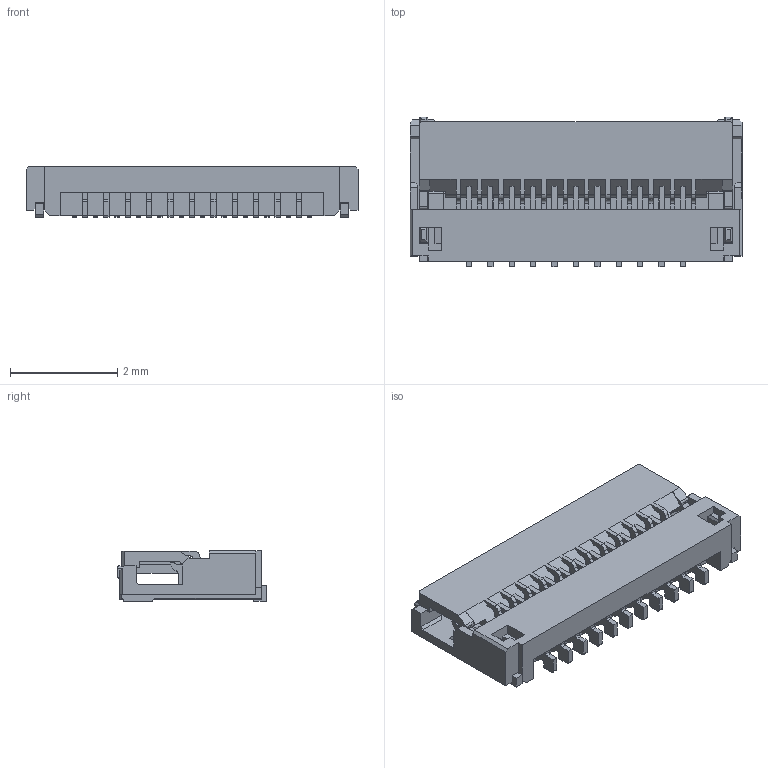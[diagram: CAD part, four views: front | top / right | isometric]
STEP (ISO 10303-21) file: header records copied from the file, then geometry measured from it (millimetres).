
FILE_DESCRIPTION (( 'STEP AP214' ), '1' );
FILE_NAME ('04_6866_723_000_846_+.STEP', '2018-10-31T04:59:05', ( 'Asmin' ), ( '' ), 'SwSTEP 2.0', 'SolidWorks 2014', '' );
FILE_SCHEMA (( 'AUTOMOTIVE_DESIGN' ));
Length unit declared in the file: millimetre
Products named in the file (1): 04_6866_723_000_846_+
Bounding box: 6.2 x 2.79 x 0.95 mm (x, y, z)
Volume: 9.8 mm3; surface area: 88.6 mm2
Topology: 1 solids, 1 shells, 777 faces, 2466 edges, 1630 vertices
Faces by surface type: plane 607, cylinder 170
Entity records: 27176 total; most frequent: CARTESIAN_POINT 4958, ORIENTED_EDGE 4932, DIRECTION 4338, EDGE_CURVE 2466, LINE 2094, VECTOR 2094, VERTEX_POINT 1630, AXIS2_PLACEMENT_3D 1122
